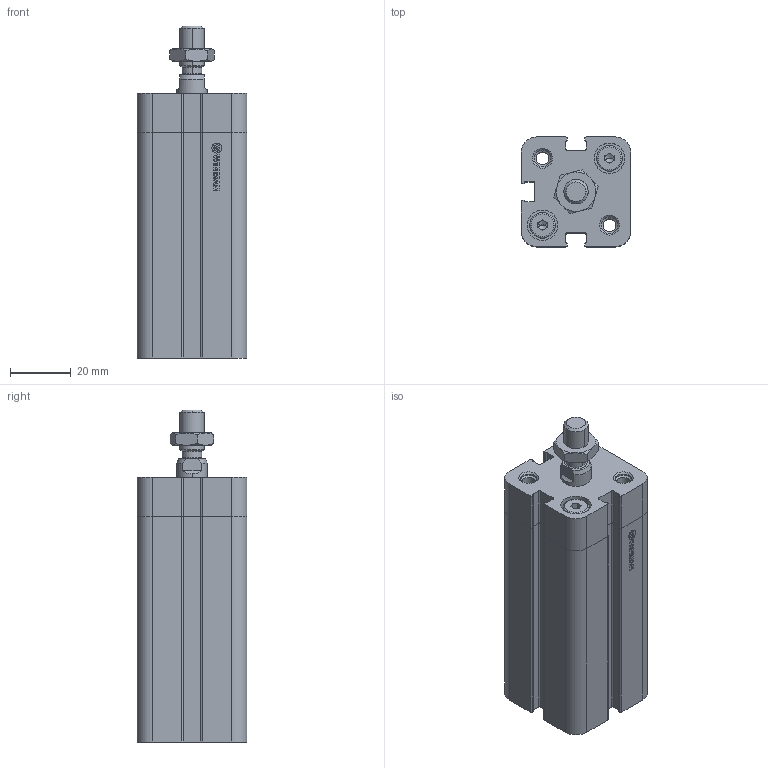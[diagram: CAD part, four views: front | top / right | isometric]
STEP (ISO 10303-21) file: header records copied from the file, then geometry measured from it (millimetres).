
FILE_DESCRIPTION (( 'STEP AP214' ), '1' );
FILE_NAME ('WINC-020-0050-ML (MDMY).STEP', '2017-12-21T08:54:02', ( 'Hidtek' ), ( '' ), 'SwSTEP 2.0', 'SolidWorks 2016', '' );
FILE_SCHEMA (( 'AUTOMOTIVE_DESIGN' ));
Length unit declared in the file: millimetre
Products named in the file (4): Group1^WINC-020-0050-ML (MDMY); WINC-020-0050-ML (MDMY); Group3^WINC-020-0050-ML (MDMY); Group2^WINC-020-0050-ML (MDMY)
Assembly tree (3 placements, depth 2):
  WINC-020-0050-ML (MDMY)
    Group1^WINC-020-0050-ML (MDMY)
    Group2^WINC-020-0050-ML (MDMY)
    Group3^WINC-020-0050-ML (MDMY)
Bounding box: 36 x 36 x 109.1 mm (x, y, z)
Volume: 88723.7 mm3; surface area: 32877 mm2
Topology: 6 solids, 6 shells, 375 faces, 950 edges, 604 vertices
Faces by surface type: plane 193, cylinder 106, cone 54, bspline 14, torus 8
Entity records: 13032 total; most frequent: CARTESIAN_POINT 2619, DIRECTION 1902, ORIENTED_EDGE 1892, EDGE_CURVE 946, AXIS2_PLACEMENT_3D 647, LINE 608, VECTOR 608, VERTEX_POINT 604
